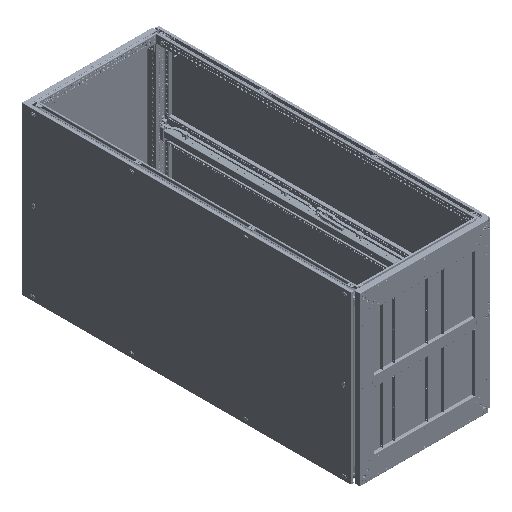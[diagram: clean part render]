
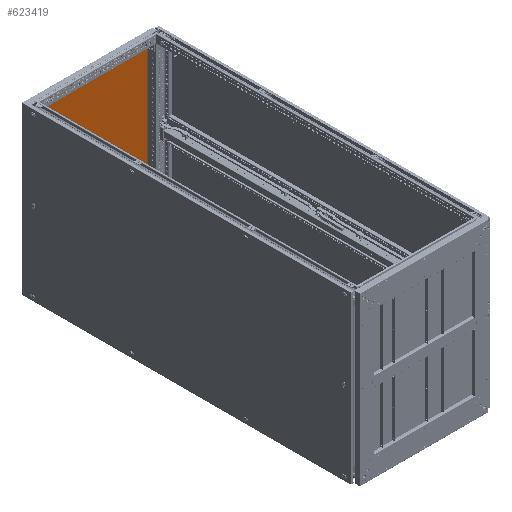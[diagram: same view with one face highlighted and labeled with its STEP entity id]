
A CAD part, isometric view. The second image highlights one B-rep face of the part: STEP entity #623419.
In plain terms, the highlighted planar face has unit normal (0, -1, 0).
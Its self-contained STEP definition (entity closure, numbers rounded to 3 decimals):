
#22351 = CARTESIAN_POINT ( 'NONE',  ( -445.01, 0., -345. ) ) ;
#23134 = VECTOR ( 'NONE', #196877, 1000. ) ;
#30169 = CARTESIAN_POINT ( 'NONE',  ( 445.01, 0., 350. ) ) ;
#34196 = EDGE_LOOP ( 'NONE', ( #95219, #526534, #285446, #458977, #427817, #79674, #680948, #543587 ) ) ;
#36388 = EDGE_CURVE ( 'NONE', #103060, #394387, #390337, .T. ) ;
#41522 = DIRECTION ( 'NONE',  ( 0., -1., 0. ) ) ;
#59858 = DIRECTION ( 'NONE',  ( 0., 0., 1. ) ) ;
#67003 = DIRECTION ( 'NONE',  ( 0., 0., -1. ) ) ;
#70960 = LINE ( 'NONE', #74591, #23134 ) ;
#72075 = AXIS2_PLACEMENT_3D ( 'NONE', #115516, #341876, #59858 ) ;
#74591 = CARTESIAN_POINT ( 'NONE',  ( 445.01, 0., 350. ) ) ;
#79674 = ORIENTED_EDGE ( 'NONE', *, *, #144570, .T. ) ;
#82133 = VECTOR ( 'NONE', #510069, 1000. ) ;
#86070 = CIRCLE ( 'NONE', #382704, 5. ) ;
#90839 = CARTESIAN_POINT ( 'NONE',  ( 450.01, 0., -345. ) ) ;
#95219 = ORIENTED_EDGE ( 'NONE', *, *, #265757, .T. ) ;
#99438 = AXIS2_PLACEMENT_3D ( 'NONE', #314899, #103143, #144198 ) ;
#103060 = VERTEX_POINT ( 'NONE', #150532 ) ;
#103143 = DIRECTION ( 'NONE',  ( 0., -1., 0. ) ) ;
#115516 = CARTESIAN_POINT ( 'NONE',  ( -487.7, 0., -382.5 ) ) ;
#124458 = CARTESIAN_POINT ( 'NONE',  ( -450.01, 0., -345. ) ) ;
#127543 = CARTESIAN_POINT ( 'NONE',  ( -450.01, 0., 345. ) ) ;
#128141 = DIRECTION ( 'NONE',  ( 0., -1., 0. ) ) ;
#138461 = EDGE_CURVE ( 'NONE', #394387, #313629, #283620, .T. ) ;
#144198 = DIRECTION ( 'NONE',  ( 0., 0., -1. ) ) ;
#144570 = EDGE_CURVE ( 'NONE', #415856, #103060, #70960, .T. ) ;
#150532 = CARTESIAN_POINT ( 'NONE',  ( -445.01, 0., 350. ) ) ;
#152743 = EDGE_CURVE ( 'NONE', #312528, #207491, #306386, .T. ) ;
#171175 = FACE_OUTER_BOUND ( 'NONE', #34196, .T. ) ;
#176518 = CARTESIAN_POINT ( 'NONE',  ( -445.01, 0., 345. ) ) ;
#187592 = CIRCLE ( 'NONE', #448360, 5. ) ;
#187677 = CARTESIAN_POINT ( 'NONE',  ( 445.01, 0., -350. ) ) ;
#196877 = DIRECTION ( 'NONE',  ( -1., 0., 0. ) ) ;
#207491 = VERTEX_POINT ( 'NONE', #350474 ) ;
#208503 = DIRECTION ( 'NONE',  ( 0., 0., -1. ) ) ;
#258208 = DIRECTION ( 'NONE',  ( 0., 0., 1. ) ) ;
#264839 = VERTEX_POINT ( 'NONE', #413788 ) ;
#265757 = EDGE_CURVE ( 'NONE', #313629, #207491, #187592, .T. ) ;
#283620 = LINE ( 'NONE', #127543, #82133 ) ;
#285446 = ORIENTED_EDGE ( 'NONE', *, *, #459636, .T. ) ;
#302493 = DIRECTION ( 'NONE',  ( 0., 0., -1. ) ) ;
#306386 = LINE ( 'NONE', #187677, #359317 ) ;
#312528 = VERTEX_POINT ( 'NONE', #348792 ) ;
#313629 = VERTEX_POINT ( 'NONE', #124458 ) ;
#314899 = CARTESIAN_POINT ( 'NONE',  ( 445.01, 0., 345. ) ) ;
#321737 = CARTESIAN_POINT ( 'NONE',  ( -450.01, 0., 345. ) ) ;
#341876 = DIRECTION ( 'NONE',  ( 0., 1., 0. ) ) ;
#348388 = CIRCLE ( 'NONE', #99438, 5. ) ;
#348792 = CARTESIAN_POINT ( 'NONE',  ( 445.01, 0., -350. ) ) ;
#350474 = CARTESIAN_POINT ( 'NONE',  ( -445.01, 0., -350. ) ) ;
#354297 = AXIS2_PLACEMENT_3D ( 'NONE', #176518, #128141, #302493 ) ;
#359317 = VECTOR ( 'NONE', #477145, 1000. ) ;
#382704 = AXIS2_PLACEMENT_3D ( 'NONE', #717065, #41522, #208503 ) ;
#390337 = CIRCLE ( 'NONE', #354297, 5. ) ;
#394387 = VERTEX_POINT ( 'NONE', #321737 ) ;
#413788 = CARTESIAN_POINT ( 'NONE',  ( 450.01, 0., 345. ) ) ;
#415856 = VERTEX_POINT ( 'NONE', #30169 ) ;
#427817 = ORIENTED_EDGE ( 'NONE', *, *, #472585, .T. ) ;
#428983 = CARTESIAN_POINT ( 'NONE',  ( 450.01, 0., -345. ) ) ;
#448360 = AXIS2_PLACEMENT_3D ( 'NONE', #22351, #686909, #67003 ) ;
#458977 = ORIENTED_EDGE ( 'NONE', *, *, #505152, .T. ) ;
#459636 = EDGE_CURVE ( 'NONE', #312528, #690783, #86070, .T. ) ;
#472585 = EDGE_CURVE ( 'NONE', #264839, #415856, #348388, .T. ) ;
#477145 = DIRECTION ( 'NONE',  ( -1., 0., 0. ) ) ;
#505152 = EDGE_CURVE ( 'NONE', #690783, #264839, #651801, .T. ) ;
#510069 = DIRECTION ( 'NONE',  ( 0., 0., -1. ) ) ;
#526534 = ORIENTED_EDGE ( 'NONE', *, *, #152743, .F. ) ;
#539305 = VECTOR ( 'NONE', #258208, 1000. ) ;
#543587 = ORIENTED_EDGE ( 'NONE', *, *, #138461, .T. ) ;
#623419 = ADVANCED_FACE ( 'NONE', ( #171175 ), #624063, .F. ) ;
#624063 = PLANE ( 'NONE',  #72075 ) ;
#651801 = LINE ( 'NONE', #428983, #539305 ) ;
#680948 = ORIENTED_EDGE ( 'NONE', *, *, #36388, .T. ) ;
#686909 = DIRECTION ( 'NONE',  ( 0., -1., 0. ) ) ;
#690783 = VERTEX_POINT ( 'NONE', #90839 ) ;
#717065 = CARTESIAN_POINT ( 'NONE',  ( 445.01, 0., -345. ) ) ;
